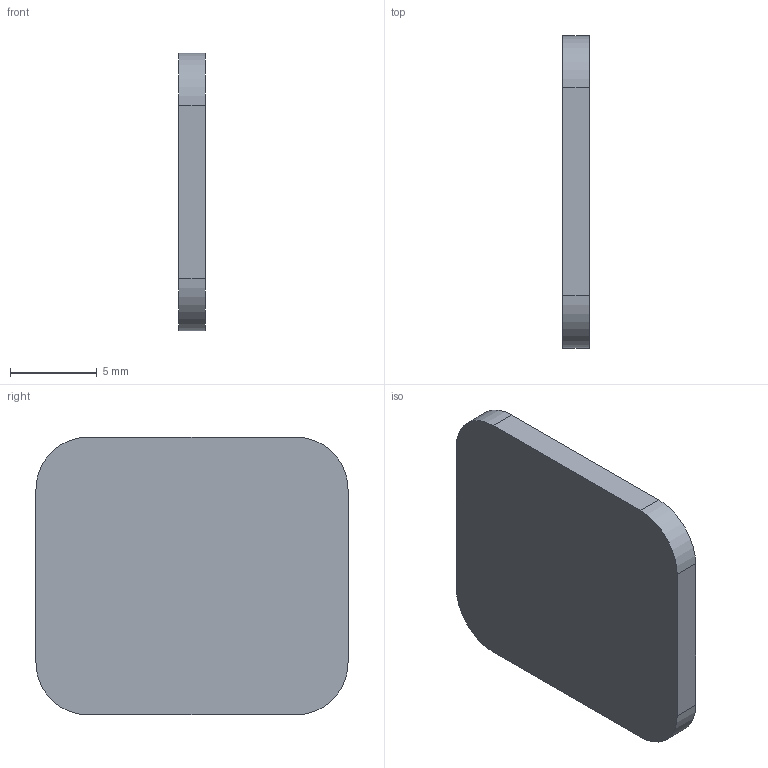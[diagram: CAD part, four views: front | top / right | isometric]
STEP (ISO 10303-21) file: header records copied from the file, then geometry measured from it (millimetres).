
FILE_DESCRIPTION(('Open CASCADE Model'),'2;1');
FILE_NAME('Open CASCADE Shape Model','2026-09-09T10:24:07',('Author'),( 'Open CASCADE'),'Open CASCADE STEP processor 7.8','Open CASCADE 7.8' ,'Unknown');
FILE_SCHEMA(('AUTOMOTIVE_DESIGN { 1 0 10303 214 1 1 1 1 }'));
Length unit declared in the file: millimetre
Products named in the file (1): Open CASCADE STEP translator 7.8 4
Bounding box: 1.5 x 18 x 16 mm (x, y, z)
Volume: 420.4 mm3; surface area: 654.8 mm2
Topology: 1 solids, 1 shells, 10 faces, 24 edges, 16 vertices
Faces by surface type: plane 6, cylinder 4
Entity records: 630 total; most frequent: CARTESIAN_POINT 123, DIRECTION 98, LINE 56, VECTOR 56, ORIENTED_EDGE 48, PCURVE 48, DEFINITIONAL_REPRESENTATION 48, EDGE_CURVE 24
